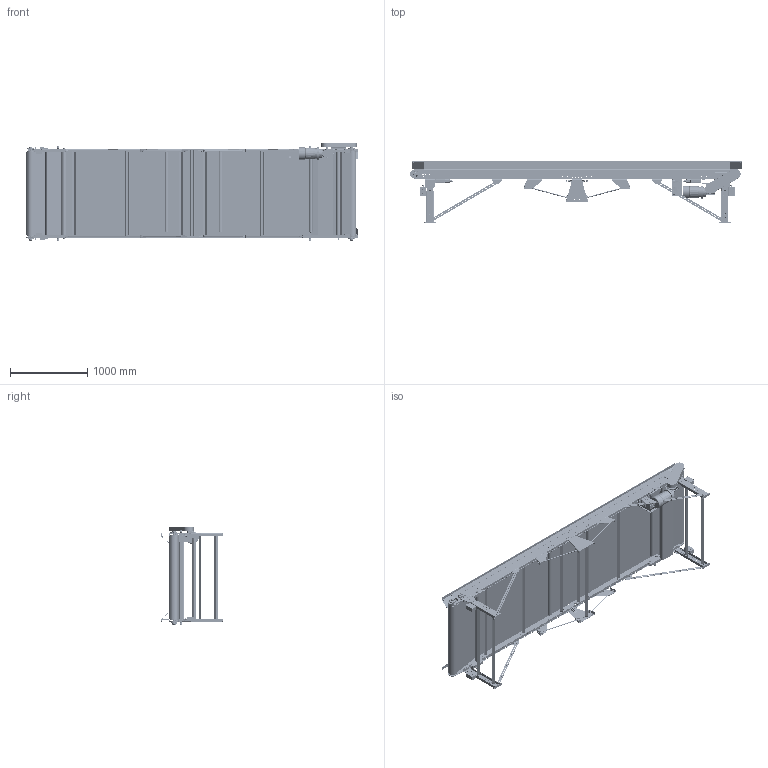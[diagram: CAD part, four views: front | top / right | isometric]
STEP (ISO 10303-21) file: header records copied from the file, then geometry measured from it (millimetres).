
FILE_DESCRIPTION(/* description */ (''),/* implementation_level */ '2;1');
FILE_NAME(/* name */ 'beltconveyor_a026_w1100_l4200.stp',/* time_stamp */ '2024-12-16T23:13:43+08:00',/* author */ (''),/* organization */ (''),/* preprocessor_version */ 'ST-DEVELOPER v16.7',/* originating_system */ 'SIEMENS PLM Software NX 12.0',/* authorisation */ '');
FILE_SCHEMA (('AUTOMOTIVE_DESIGN { 1 0 10303 214 3 1 1 1 }'));
Products named in the file (103): PCP3107 housing; PCP3107 bearing; PCP1000 Bearing; PCP1000 Housing; Standard Happy Face; PS TYPE BOOT_PS-6 BOOT; PS-6 SINGLE124134; bead16; bead15; BBTP-PT; BBTP-SBFTD; bead18; bead17; Hex Thick Nut_AI_HTNUT 0.5000-13-D-N; BBTPA232451; 0.4375 Hex Shaft_42 B.F; 1.9 16ga Tube_42 B.F; MirrorSBFTD206-19  ( 2 Bolt Bearing ); MirrorBBDEP; 2.5 11ga Tube_45 B.F; 0.6875  Hex Shaft_45 B.F; SBFTD206-19  ( 2 Bolt Bearing ); BBDEP; bead2; bead1; 23745-008-1; 23745-008288513; 33889-B-017; MirrorMirror33889-B-019; MirrorMirror33889-B-017; FS-2_42 BF; xy2cz403_TENDEUR_1#TENDEUR;TENDEUR; xy2cz403_ECROU_M8_2#ECROU_M8;ECROU_M8; xy2cz403_ECROU_M8_1#ECROU_M8;ECROU_M8; xy2cz403_CABLE_SUPPORT_2#CABLE_SUPPORT;CABLE_SUPPORT; xy2cz403_CABLE_SUPPORT_1#CABLE_SUPPORT;CABLE_SUPPORT; 33889-B-020; 33889-B-018; 33889-B-019; 33889-B-015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
Assembly tree (196 placements, depth 5):
  beltconveyor_a026_w1100_l4200
    XKB-3  x4
    33889-B-013  x4
    THREADED CONNECTING ROD_6516K96  x4
    Mirror33889 END TRUSS ASSY
      Mirror33889-B-017
      Mirror33889-B-019  x2
    33889 BELT SKIRT ASSY  x4
      90630A110 - Nylon-Nut_90630A110
      91500A540 - Flat Screw_91500A540
      33889-B-012
      33889-B-011
      33889-B-016
    RRB-7  x4
    33889 DRIVE  BED ASSY
      MirrorAC-11
      23745-008
        23745-008288513
        23745-008-1  x2
        bead1
        bead2
      27363-B-002
      MirrorAC-7  x2
      AC-7  x2
      APEX-B-002 STIFFENER BAR
      23745-007
      33889-B-03
      AC-11
      33889-B-014
      SK1SI50 VA 56C
      BBDP-SBFTD206-2
        BBDEP
        SBFTD206-19  ( 2 Bolt Bearing )
      FS-1_44 BF  x3
      2.5 Roller PCP Bearing_2.5 Roller PCP Bearing 45 B.F
        0.6875  Hex Shaft_45 B.F
        PCP1000 0.6875 Hex Bearing  x2
          PCP1000 Housing
          PCP1000 Bearing
        2.5 11ga Tube_45 B.F
      MirrorBBDP-SBFTD206-2
        MirrorBBDEP
        MirrorSBFTD206-19  ( 2 Bolt Bearing )
      33889-B-06
      1.9Roller PCP Bearing_1.9 Roller PCP Bearing 42 B.F  x2
        1.9 16ga Tube_42 B.F
        0.4375 Hex Shaft_42 B.F
        PCP3107 0.4375 Hex Bearing
          PCP3107 bearing
          PCP3107 housing
      motor
      23745-010
      23745-009
      Mirror27363-B-002
    94895A823_ZINC YELLOW-CHROMATE PLATED STEEL HEX NUT_94895A823  x19
    START-STOP SWITCH ASSY  x4
      GREEN-Steel Metal Push Button Switch
      RED Steel Metal Push Button Switch
      ENCLOSED SWITCH BOX
    cable  x2
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Bounding box: 4292.43 x 790.07 x 1265.24 mm (x, y, z)
Volume: 96036092.7 mm3; surface area: 50708128.7 mm2
Topology: 415 solids, 420 shells, 18782 faces, 48429 edges, 30736 vertices
Faces by surface type: plane 7574, cylinder 7196, cone 2202, bspline 806, torus 555, extrusion 369, sphere 80
Full cylindrical faces by diameter (mm): 11.1 x3, 11.112 x12, 11.113 x2
Entity records: 297829 total; most frequent: CARTESIAN_POINT 113422, ORIENTED_EDGE 38478, DIRECTION 34209, EDGE_CURVE 19239, VERTEX_POINT 12488, VECTOR 12339, LINE 11970, AXIS2_PLACEMENT_3D 10935
